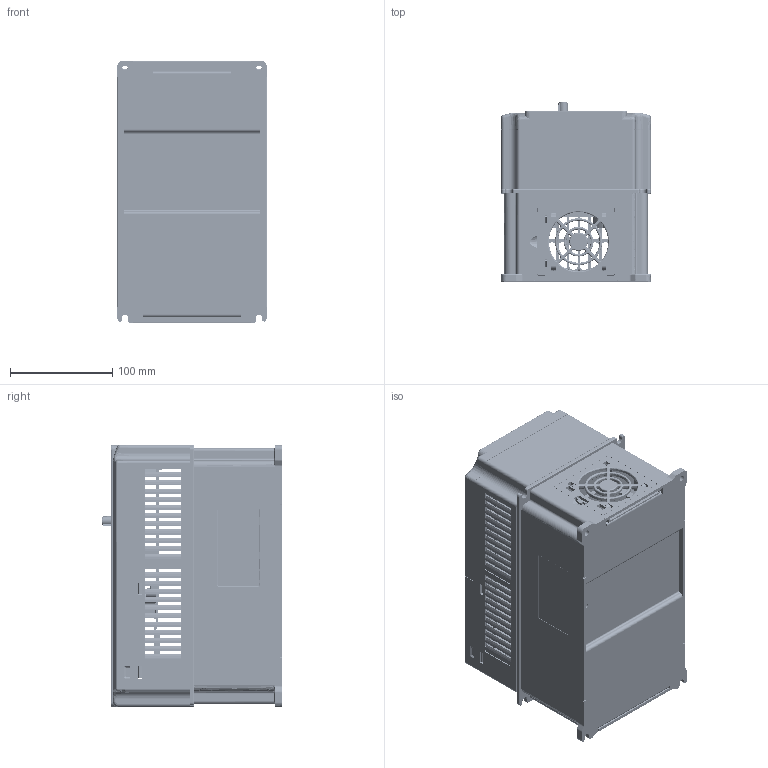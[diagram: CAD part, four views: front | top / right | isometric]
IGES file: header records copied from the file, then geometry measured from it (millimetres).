
Start section: SolidWorks IGES file using analytic representation for surfaces
Global section: file name: Z:\Products\VFD\UMI-B1\UMI-B1 (GD20 series)  3D file\GD20-5R5G-4\3D CAD Files\GD20-5R5G-4.IGS; native system: SolidWorks 2017; preprocessor: SolidWorks 2017; author: LaorB; date: 200325.165334; units: millimetre
Bounding box: 146 x 175.35 x 256 mm (x, y, z)
Surface area: 667649.8 mm2 (no closed solid volume)
Topology: 0 solids, 0 shells, 6327 faces, 54372 edges, 54327 vertices
Faces by surface type: bspline 4467, revolution 1860
